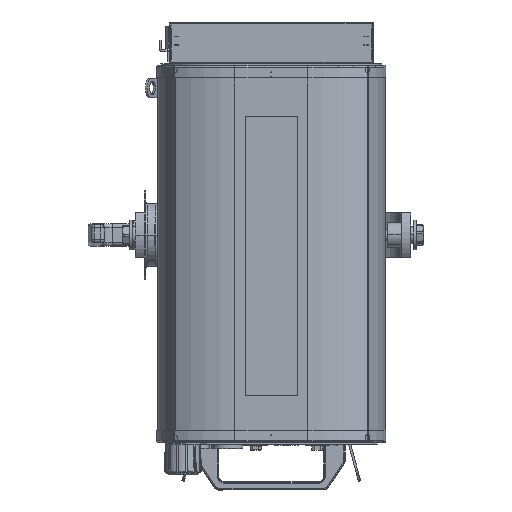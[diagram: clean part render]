
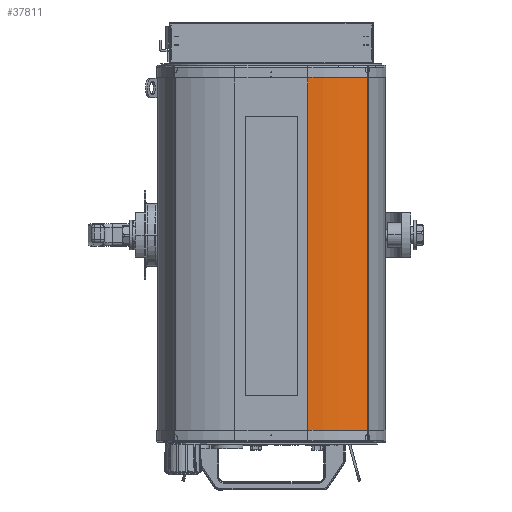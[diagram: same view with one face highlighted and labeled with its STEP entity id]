
A CAD part, front view. The second image highlights one B-rep face of the part: STEP entity #37811.
In plain terms, the highlighted cylindrical face has radius 103 mm (diameter 206 mm), a partial arc.
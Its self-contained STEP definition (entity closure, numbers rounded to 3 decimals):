
#408 = CARTESIAN_POINT ( 'NONE',  ( -153.926, -127.354, 472.434 ) ) ;
#2286 = DIRECTION ( 'NONE',  ( 0., 0., -1. ) ) ;
#3196 = CARTESIAN_POINT ( 'NONE',  ( -153.913, -127.347, 293.195 ) ) ;
#4938 = CARTESIAN_POINT ( 'NONE',  ( -153.926, -127.354, 293.49 ) ) ;
#5345 = EDGE_CURVE ( 'NONE', #29223, #212317, #151881, .T. ) ;
#9232 = VECTOR ( 'NONE', #108522, 1000. ) ;
#11078 = EDGE_CURVE ( 'NONE', #148637, #30436, #176688, .T. ) ;
#12427 = VERTEX_POINT ( 'NONE', #4938 ) ;
#22436 = CARTESIAN_POINT ( 'NONE',  ( -153.829, -127.297, -37.782 ) ) ;
#24680 = CARTESIAN_POINT ( 'NONE',  ( -152.886, -126.733, -36.441 ) ) ;
#25215 = VECTOR ( 'NONE', #197379, 1000. ) ;
#27107 = CARTESIAN_POINT ( 'NONE',  ( -206.251, -38.635, 297.49 ) ) ;
#29223 = VERTEX_POINT ( 'NONE', #78234 ) ;
#30436 = VERTEX_POINT ( 'NONE', #218259 ) ;
#36136 = CARTESIAN_POINT ( 'NONE',  ( -153.926, -127.354, -42.51 ) ) ;
#36642 = CARTESIAN_POINT ( 'NONE',  ( -206.251, -141.635, -42.51 ) ) ;
#37811 = ADVANCED_FACE ( 'NONE', ( #174257 ), #155380, .T. ) ;
#38939 = LINE ( 'NONE', #408, #9232 ) ;
#39038 = B_SPLINE_CURVE_WITH_KNOTS ( 'NONE', 3,
 ( #74804, #91321, #3196, #182058, #145537, #217341, #56077, #127912, #199770, #212753, #61799, #111318, #94813, #183218, #169063, #39434 ),
 .UNSPECIFIED., .F., .F.,
 ( 4, 2, 2, 2, 2, 2, 2, 4 ),
 ( 0., 0., 0.001, 0.001, 0.002, 0.002, 0.003, 0.004 ),
 .UNSPECIFIED. ) ;
#39434 = CARTESIAN_POINT ( 'NONE',  ( -152.052, -126.222, 291.106 ) ) ;
#41904 = ORIENTED_EDGE ( 'NONE', *, *, #191007, .T. ) ;
#43458 = CARTESIAN_POINT ( 'NONE',  ( -153.541, -127.126, -37.127 ) ) ;
#44653 = CARTESIAN_POINT ( 'NONE',  ( -153.464, -127.08, -37.01 ) ) ;
#51934 = DIRECTION ( 'NONE',  ( 0., 0., -1. ) ) ;
#56077 = CARTESIAN_POINT ( 'NONE',  ( -153.678, -127.207, 292.358 ) ) ;
#57985 = AXIS2_PLACEMENT_3D ( 'NONE', #170318, #114889, #78375 ) ;
#60089 = CARTESIAN_POINT ( 'NONE',  ( -152.993, -126.798, -36.518 ) ) ;
#61799 = CARTESIAN_POINT ( 'NONE',  ( -153.197, -126.921, 291.677 ) ) ;
#67303 = CARTESIAN_POINT ( 'NONE',  ( -153.926, -127.354, 472.434 ) ) ;
#74804 = CARTESIAN_POINT ( 'NONE',  ( -153.926, -127.354, 293.49 ) ) ;
#76499 = CARTESIAN_POINT ( 'NONE',  ( -153.913, -127.347, -38.212 ) ) ;
#78234 = CARTESIAN_POINT ( 'NONE',  ( -206.251, -141.635, 297.49 ) ) ;
#78375 = DIRECTION ( 'NONE',  ( -1., 0., 0. ) ) ;
#79976 = CARTESIAN_POINT ( 'NONE',  ( -152.304, -126.378, -36.159 ) ) ;
#82168 = EDGE_CURVE ( 'NONE', #212317, #12427, #38939, .T. ) ;
#85348 = EDGE_CURVE ( 'NONE', #30436, #110387, #136820, .T. ) ;
#86694 = AXIS2_PLACEMENT_3D ( 'NONE', #215320, #2286, #218719 ) ;
#88014 = CARTESIAN_POINT ( 'NONE',  ( -152.052, -126.222, 297.49 ) ) ;
#91321 = CARTESIAN_POINT ( 'NONE',  ( -153.926, -127.354, 293.342 ) ) ;
#94180 = CARTESIAN_POINT ( 'NONE',  ( -153.735, -127.241, -37.508 ) ) ;
#94813 = CARTESIAN_POINT ( 'NONE',  ( -152.886, -126.733, 291.422 ) ) ;
#100997 = ORIENTED_EDGE ( 'NONE', *, *, #85348, .F. ) ;
#103159 = ORIENTED_EDGE ( 'NONE', *, *, #150387, .F. ) ;
#108522 = DIRECTION ( 'NONE',  ( 0., 0., -1. ) ) ;
#110387 = VERTEX_POINT ( 'NONE', #36136 ) ;
#110711 = CIRCLE ( 'NONE', #57985, 103. ) ;
#111318 = CARTESIAN_POINT ( 'NONE',  ( -152.995, -126.799, 291.5 ) ) ;
#111889 = CARTESIAN_POINT ( 'NONE',  ( -153.926, -127.354, -38.362 ) ) ;
#114199 = CARTESIAN_POINT ( 'NONE',  ( -152.052, -126.222, -36.125 ) ) ;
#114393 = ORIENTED_EDGE ( 'NONE', *, *, #210976, .F. ) ;
#114889 = DIRECTION ( 'NONE',  ( 0., 0., -1. ) ) ;
#118959 = DIRECTION ( 'NONE',  ( -1., 0., 0. ) ) ;
#120187 = ORIENTED_EDGE ( 'NONE', *, *, #5345, .F. ) ;
#126864 = EDGE_LOOP ( 'NONE', ( #103159, #232707, #120187, #41904, #173051, #100997, #144669, #114393 ) ) ;
#127912 = CARTESIAN_POINT ( 'NONE',  ( -153.542, -127.127, 292.11 ) ) ;
#131886 = CARTESIAN_POINT ( 'NONE',  ( -152.545, -126.526, -36.242 ) ) ;
#133024 = CARTESIAN_POINT ( 'NONE',  ( -153.676, -127.207, -37.375 ) ) ;
#136820 = LINE ( 'NONE', #67303, #168661 ) ;
#140862 = LINE ( 'NONE', #176302, #25215 ) ;
#141063 = LINE ( 'NONE', #88014, #205600 ) ;
#143540 = EDGE_CURVE ( 'NONE', #110387, #169315, #110711, .T. ) ;
#143926 = CARTESIAN_POINT ( 'NONE',  ( -152.052, -126.222, -36.125 ) ) ;
#144033 = CARTESIAN_POINT ( 'NONE',  ( -153.926, -127.354, 297.49 ) ) ;
#144669 = ORIENTED_EDGE ( 'NONE', *, *, #11078, .F. ) ;
#145537 = CARTESIAN_POINT ( 'NONE',  ( -153.83, -127.297, 292.764 ) ) ;
#148637 = VERTEX_POINT ( 'NONE', #143926 ) ;
#150387 = EDGE_CURVE ( 'NONE', #12427, #162695, #39038, .T. ) ;
#151881 = CIRCLE ( 'NONE', #185841, 103. ) ;
#155380 = CYLINDRICAL_SURFACE ( 'NONE', #86694, 103. ) ;
#162695 = VERTEX_POINT ( 'NONE', #177213 ) ;
#168450 = CARTESIAN_POINT ( 'NONE',  ( -153.29, -126.976, -36.793 ) ) ;
#168661 = VECTOR ( 'NONE', #51934, 1000. ) ;
#169063 = CARTESIAN_POINT ( 'NONE',  ( -152.304, -126.378, 291.14 ) ) ;
#169315 = VERTEX_POINT ( 'NONE', #36642 ) ;
#170318 = CARTESIAN_POINT ( 'NONE',  ( -206.251, -38.635, -42.51 ) ) ;
#170763 = CARTESIAN_POINT ( 'NONE',  ( -153.926, -127.354, -38.51 ) ) ;
#170853 = DIRECTION ( 'NONE',  ( 0., 0., 1. ) ) ;
#173051 = ORIENTED_EDGE ( 'NONE', *, *, #143540, .F. ) ;
#174257 = FACE_OUTER_BOUND ( 'NONE', #126864, .T. ) ;
#176302 = CARTESIAN_POINT ( 'NONE',  ( -206.251, -141.635, 297.49 ) ) ;
#176688 = B_SPLINE_CURVE_WITH_KNOTS ( 'NONE', 3,
 ( #114199, #79976, #131886, #24680, #60089, #201440, #168450, #44653, #43458, #133024, #94180, #22436, #188391, #76499, #111889, #170763 ),
 .UNSPECIFIED., .F., .F.,
 ( 4, 2, 2, 2, 2, 2, 2, 4 ),
 ( 0., 0.001, 0.001, 0.002, 0.002, 0.003, 0.003, 0.004 ),
 .UNSPECIFIED. ) ;
#177213 = CARTESIAN_POINT ( 'NONE',  ( -152.052, -126.222, 291.106 ) ) ;
#182058 = CARTESIAN_POINT ( 'NONE',  ( -153.866, -127.319, 292.907 ) ) ;
#183218 = CARTESIAN_POINT ( 'NONE',  ( -152.549, -126.528, 291.225 ) ) ;
#185841 = AXIS2_PLACEMENT_3D ( 'NONE', #27107, #170853, #118959 ) ;
#188391 = CARTESIAN_POINT ( 'NONE',  ( -153.865, -127.318, -37.923 ) ) ;
#191007 = EDGE_CURVE ( 'NONE', #29223, #169315, #140862, .T. ) ;
#197379 = DIRECTION ( 'NONE',  ( 0., 0., -1. ) ) ;
#199770 = CARTESIAN_POINT ( 'NONE',  ( -153.463, -127.08, 291.991 ) ) ;
#201440 = CARTESIAN_POINT ( 'NONE',  ( -153.195, -126.919, -36.694 ) ) ;
#205600 = VECTOR ( 'NONE', #214115, 1000. ) ;
#210976 = EDGE_CURVE ( 'NONE', #162695, #148637, #141063, .T. ) ;
#212317 = VERTEX_POINT ( 'NONE', #144033 ) ;
#212753 = CARTESIAN_POINT ( 'NONE',  ( -153.291, -126.977, 291.775 ) ) ;
#214115 = DIRECTION ( 'NONE',  ( 0., 0., -1. ) ) ;
#215320 = CARTESIAN_POINT ( 'NONE',  ( -206.251, -38.635, 472.434 ) ) ;
#217341 = CARTESIAN_POINT ( 'NONE',  ( -153.735, -127.241, 292.489 ) ) ;
#218259 = CARTESIAN_POINT ( 'NONE',  ( -153.926, -127.354, -38.51 ) ) ;
#218719 = DIRECTION ( 'NONE',  ( -1., 0., 0. ) ) ;
#232707 = ORIENTED_EDGE ( 'NONE', *, *, #82168, .F. ) ;
